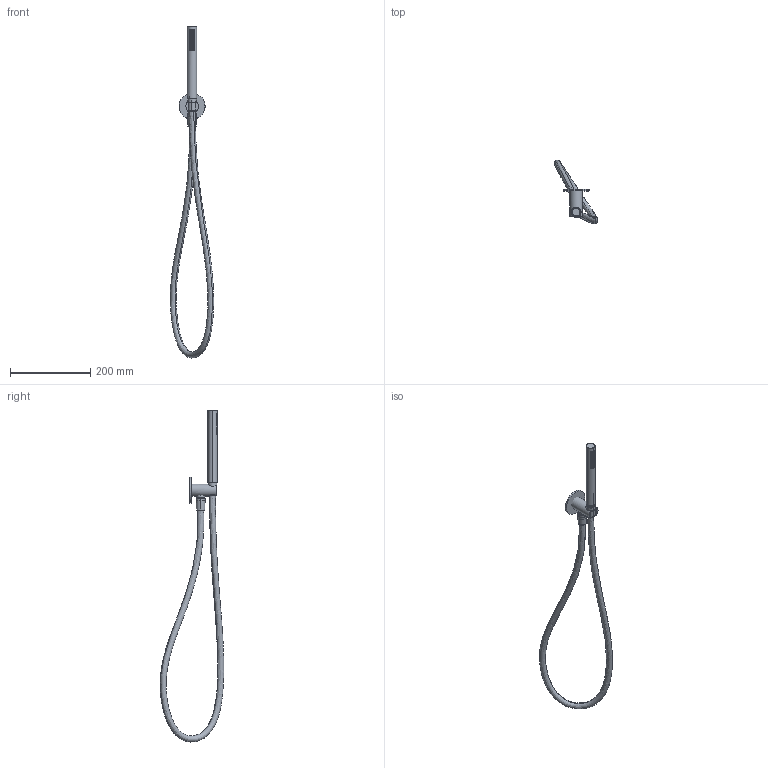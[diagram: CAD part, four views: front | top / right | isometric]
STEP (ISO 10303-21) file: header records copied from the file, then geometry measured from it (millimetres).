
FILE_DESCRIPTION(('STEP AP203'),'2;1');
FILE_NAME('DIS_3D_8125U.stp','2022-01-21T14:20:07',(''),(''),'2015.2.119','THINKDESIGN','');
FILE_SCHEMA(('CONFIG_CONTROL_DESIGN'));
Bounding box: 108 x 158.55 x 828.23 mm (x, y, z)
Volume: 309231.8 mm3; surface area: 118479.7 mm2
Topology: 7 solids, 7 shells, 1508 faces, 4081 edges, 2672 vertices
Faces by surface type: plane 1019, bspline 355, cylinder 134
Full cylindrical faces by diameter (mm): 31 x1
Entity records: 76400 total; most frequent: CARTESIAN_POINT 39956, ORIENTED_EDGE 8162, DIRECTION 6372, EDGE_CURVE 4081, VECTOR 3012, LINE 3012, VERTEX_POINT 2672, EDGE_LOOP 1761
